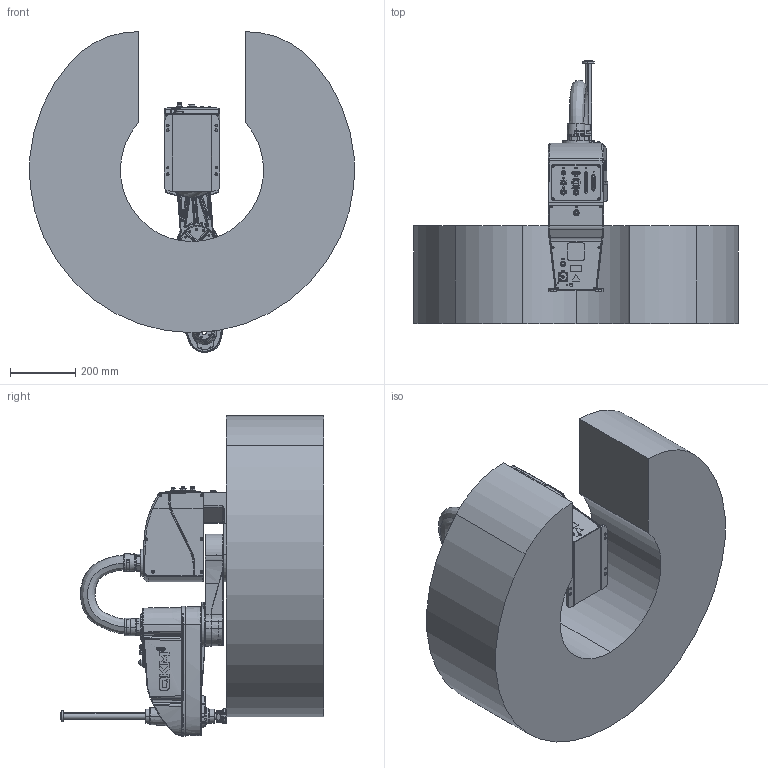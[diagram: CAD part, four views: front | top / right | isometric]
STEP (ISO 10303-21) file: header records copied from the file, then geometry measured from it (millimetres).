
FILE_DESCRIPTION (( 'STEP AP214' ), '1' );
FILE_NAME ('AH6-0500-0204-3000-T0-2.0.0.STEP', '2020-12-24T07:15:27', ( '' ), ( '' ), 'SwSTEP 2.0', 'SolidWorks 2017', '' );
FILE_SCHEMA (( 'AUTOMOTIVE_DESIGN' ));
Length unit declared in the file: millimetre
Products named in the file (7): AH6-0500-0204-3000-T6-2.0.0; AH6-0500-0204-3000-T4-2.0.0; AH6-0500-0204-3000-T2-2.0.0; AH6-0500-0204-3000-T1-2.0.0; AH6-0500-0204-3000-T5-2.0.0; AH6-0500-0204-3000-T3-2.0.0; AH6-0500-0204-3000-T0-2.0.0
Assembly tree (6 placements, depth 2):
  AH6-0500-0204-3000-T0-2.0.0
    AH6-0500-0204-3000-T3-2.0.0
    AH6-0500-0204-3000-T5-2.0.0
    AH6-0500-0204-3000-T1-2.0.0
    AH6-0500-0204-3000-T2-2.0.0
    AH6-0500-0204-3000-T4-2.0.0
    AH6-0500-0204-3000-T6-2.0.0
Bounding box: 997.2 x 810 x 986.04 mm (x, y, z)
Volume: 184343751.6 mm3; surface area: 3526106.4 mm2
Topology: 7 solids, 7 shells, 6589 faces, 17115 edges, 10946 vertices
Faces by surface type: plane 3059, bspline 1679, cylinder 1182, cone 486, torus 163, sphere 20
Entity records: 354840 total; most frequent: CARTESIAN_POINT 164753, ORIENTED_EDGE 34014, DIRECTION 24802, EDGE_CURVE 17007, VERTEX_POINT 10941, LINE 8760, VECTOR 8760, AXIS2_PLACEMENT_3D 8021
